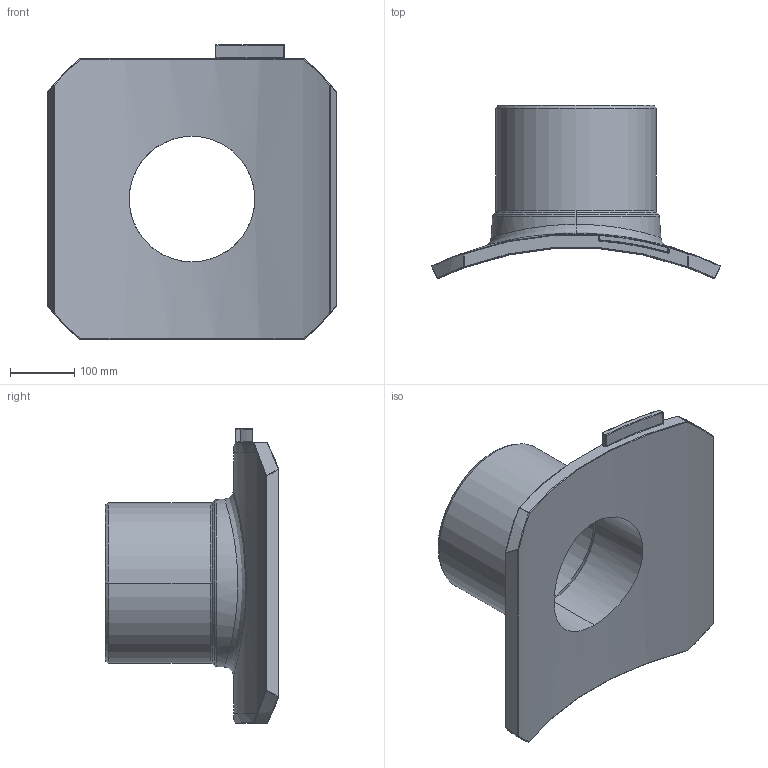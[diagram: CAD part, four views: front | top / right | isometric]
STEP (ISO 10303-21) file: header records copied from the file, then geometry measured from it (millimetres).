
FILE_DESCRIPTION((''),'2;1');
FILE_NAME('SA-UNI_D1200_250-01','2024-07-01T11:02:07',('mikulicp'),(''),'CREO PARAMETRIC BY PTC INC, 2022124','CREO PARAMETRIC BY PTC INC, 2022124','');
FILE_SCHEMA(('AP242_MANAGED_MODEL_BASED_3D_ENGINEERING_MIM_LF { 1 0 10303 442 1 1 4 }'));
Length unit declared in the file: millimetre
Products named in the file (2): SA-UNI_D1200_250-01; PE100
Bounding box: 449.67 x 270.57 x 460 mm (x, y, z)
Volume: 7422150.9 mm3; surface area: 666276.6 mm2
Topology: 1 solids, 1 shells, 235 faces, 569 edges, 352 vertices
Faces by surface type: bspline 74, plane 66, cylinder 49, sphere 20, torus 14, cone 12
Entity records: 14781 total; most frequent: CARTESIAN_POINT 6809, ORIENTED_EDGE 1138, DIRECTION 862, PRESENTATION_STYLE_ASSIGNMENT 581, STYLED_ITEM 570, CURVE_STYLE 569, EDGE_CURVE 569, VERTEX_POINT 352
